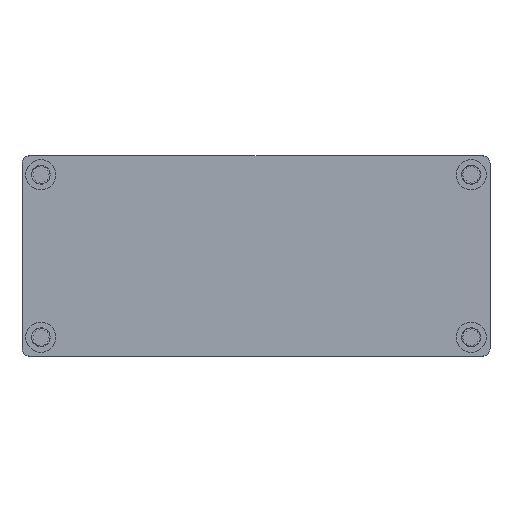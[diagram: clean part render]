
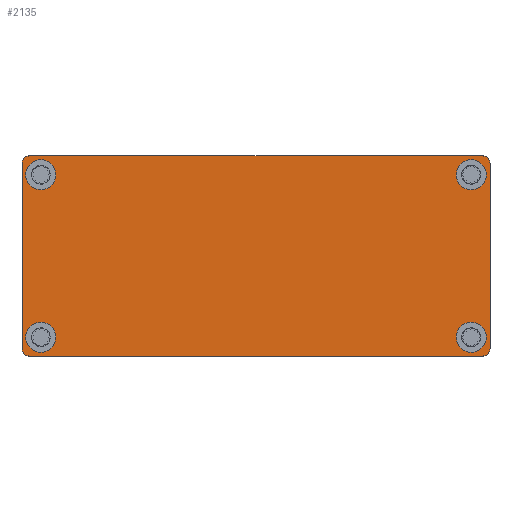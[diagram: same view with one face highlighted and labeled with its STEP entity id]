
A CAD part, front view. The second image highlights one B-rep face of the part: STEP entity #2135.
In plain terms, the highlighted planar face has unit normal (0, -1, 0).
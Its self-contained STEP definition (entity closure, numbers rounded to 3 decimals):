
#1 = CARTESIAN_POINT ( 'NONE',  ( -31.1, -1.2, -12.3 ) ) ;
#48 = CARTESIAN_POINT ( 'NONE',  ( -31.1, -1.2, 12.3 ) ) ;
#133 = LINE ( 'NONE', #3810, #10622 ) ;
#155 = EDGE_CURVE ( 'NONE', #11324, #10833, #3067, .T. ) ;
#161 = DIRECTION ( 'NONE',  ( 0., 0., 1. ) ) ;
#549 = CARTESIAN_POINT ( 'NONE',  ( -31.1, -1.2, -13.3 ) ) ;
#551 = DIRECTION ( 'NONE',  ( 0., -1., 0. ) ) ;
#578 = CARTESIAN_POINT ( 'NONE',  ( 28.6, -1.2, -12.8 ) ) ;
#744 = DIRECTION ( 'NONE',  ( 0., -1., 0. ) ) ;
#761 = DIRECTION ( 'NONE',  ( 0., -1., 0. ) ) ;
#951 = ORIENTED_EDGE ( 'NONE', *, *, #8609, .F. ) ;
#1085 = ORIENTED_EDGE ( 'NONE', *, *, #10378, .F. ) ;
#1406 = DIRECTION ( 'NONE',  ( 0., 0., 1. ) ) ;
#1428 = ORIENTED_EDGE ( 'NONE', *, *, #8620, .F. ) ;
#1539 = ORIENTED_EDGE ( 'NONE', *, *, #5530, .T. ) ;
#1627 = CARTESIAN_POINT ( 'NONE',  ( 30.1, -1.2, -12.3 ) ) ;
#1722 = DIRECTION ( 'NONE',  ( 1., 0., 0. ) ) ;
#1723 = CARTESIAN_POINT ( 'NONE',  ( 30.1, -1.2, -13.3 ) ) ;
#1787 = VERTEX_POINT ( 'NONE', #10105 ) ;
#2135 = ADVANCED_FACE ( 'NONE', ( #11068, #7454, #11904, #2731, #3647 ), #5458, .F. ) ;
#2200 = EDGE_CURVE ( 'NONE', #6940, #11242, #4633, .T. ) ;
#2226 = EDGE_LOOP ( 'NONE', ( #951, #1539, #1428, #2683, #8391, #9084, #4834, #10608 ) ) ;
#2328 = DIRECTION ( 'NONE',  ( 0., 0., 1. ) ) ;
#2387 = CARTESIAN_POINT ( 'NONE',  ( -28.6, -1.2, 10.8 ) ) ;
#2466 = AXIS2_PLACEMENT_3D ( 'NONE', #10219, #8417, #161 ) ;
#2476 = AXIS2_PLACEMENT_3D ( 'NONE', #9714, #551, #1406 ) ;
#2501 = CARTESIAN_POINT ( 'NONE',  ( -31.1, -1.2, 13.3 ) ) ;
#2578 = CARTESIAN_POINT ( 'NONE',  ( 28.6, -1.2, 10.8 ) ) ;
#2655 = CIRCLE ( 'NONE', #2466, 1. ) ;
#2683 = ORIENTED_EDGE ( 'NONE', *, *, #155, .T. ) ;
#2731 = FACE_BOUND ( 'NONE', #11392, .T. ) ;
#2925 = CARTESIAN_POINT ( 'NONE',  ( 0., -1.2, 0. ) ) ;
#3030 = CARTESIAN_POINT ( 'NONE',  ( -28.6, -1.2, -10.8 ) ) ;
#3061 = EDGE_CURVE ( 'NONE', #6551, #11242, #8777, .T. ) ;
#3067 = CIRCLE ( 'NONE', #2476, 1. ) ;
#3189 = EDGE_CURVE ( 'NONE', #6940, #10833, #6131, .T. ) ;
#3310 = EDGE_CURVE ( 'NONE', #6551, #10579, #2655, .T. ) ;
#3365 = CARTESIAN_POINT ( 'NONE',  ( 28.6, -1.2, 8.8 ) ) ;
#3469 = DIRECTION ( 'NONE',  ( 0., 0., -1. ) ) ;
#3479 = VERTEX_POINT ( 'NONE', #578 ) ;
#3647 = FACE_OUTER_BOUND ( 'NONE', #2226, .T. ) ;
#3670 = AXIS2_PLACEMENT_3D ( 'NONE', #10154, #4611, #8281 ) ;
#3710 = DIRECTION ( 'NONE',  ( 0., 0., 1. ) ) ;
#3810 = CARTESIAN_POINT ( 'NONE',  ( 31.1, -1.2, -13.3 ) ) ;
#4213 = VECTOR ( 'NONE', #2328, 1000. ) ;
#4228 = DIRECTION ( 'NONE',  ( -1., 0., 0. ) ) ;
#4611 = DIRECTION ( 'NONE',  ( 0., -1., 0. ) ) ;
#4633 = CIRCLE ( 'NONE', #3670, 1. ) ;
#4646 = EDGE_CURVE ( 'NONE', #3479, #3479, #7568, .T. ) ;
#4834 = ORIENTED_EDGE ( 'NONE', *, *, #3061, .F. ) ;
#4955 = EDGE_CURVE ( 'NONE', #5231, #5231, #9136, .T. ) ;
#5118 = VERTEX_POINT ( 'NONE', #3365 ) ;
#5138 = LINE ( 'NONE', #549, #5234 ) ;
#5231 = VERTEX_POINT ( 'NONE', #11624 ) ;
#5234 = VECTOR ( 'NONE', #4228, 1000. ) ;
#5256 = CIRCLE ( 'NONE', #5263, 2. ) ;
#5263 = AXIS2_PLACEMENT_3D ( 'NONE', #2578, #6324, #7225 ) ;
#5269 = AXIS2_PLACEMENT_3D ( 'NONE', #2387, #744, #3469 ) ;
#5458 = PLANE ( 'NONE',  #11380 ) ;
#5530 = EDGE_CURVE ( 'NONE', #6083, #8333, #8160, .T. ) ;
#5575 = EDGE_LOOP ( 'NONE', ( #8449 ) ) ;
#5887 = CARTESIAN_POINT ( 'NONE',  ( -30.1, -1.2, -13.3 ) ) ;
#5985 = CARTESIAN_POINT ( 'NONE',  ( 31.1, -1.2, -12.3 ) ) ;
#6073 = CARTESIAN_POINT ( 'NONE',  ( 31.1, -1.2, 12.3 ) ) ;
#6083 = VERTEX_POINT ( 'NONE', #1723 ) ;
#6131 = LINE ( 'NONE', #2501, #7865 ) ;
#6324 = DIRECTION ( 'NONE',  ( 0., -1., 0. ) ) ;
#6551 = VERTEX_POINT ( 'NONE', #1 ) ;
#6822 = EDGE_CURVE ( 'NONE', #5118, #5118, #5256, .T. ) ;
#6940 = VERTEX_POINT ( 'NONE', #10175 ) ;
#7019 = DIRECTION ( 'NONE',  ( 0., -1., 0. ) ) ;
#7167 = ORIENTED_EDGE ( 'NONE', *, *, #6822, .F. ) ;
#7225 = DIRECTION ( 'NONE',  ( 0., 0., -1. ) ) ;
#7454 = FACE_BOUND ( 'NONE', #11511, .T. ) ;
#7568 = CIRCLE ( 'NONE', #10053, 2. ) ;
#7619 = DIRECTION ( 'NONE',  ( 0., -1., 0. ) ) ;
#7865 = VECTOR ( 'NONE', #1722, 1000. ) ;
#8160 = CIRCLE ( 'NONE', #10084, 1. ) ;
#8281 = DIRECTION ( 'NONE',  ( 0., 0., 1. ) ) ;
#8333 = VERTEX_POINT ( 'NONE', #5985 ) ;
#8391 = ORIENTED_EDGE ( 'NONE', *, *, #3189, .F. ) ;
#8417 = DIRECTION ( 'NONE',  ( 0., -1., 0. ) ) ;
#8449 = ORIENTED_EDGE ( 'NONE', *, *, #4955, .F. ) ;
#8569 = ORIENTED_EDGE ( 'NONE', *, *, #4646, .F. ) ;
#8609 = EDGE_CURVE ( 'NONE', #6083, #10579, #5138, .T. ) ;
#8620 = EDGE_CURVE ( 'NONE', #11324, #8333, #133, .T. ) ;
#8777 = LINE ( 'NONE', #9513, #4213 ) ;
#9084 = ORIENTED_EDGE ( 'NONE', *, *, #2200, .T. ) ;
#9136 = CIRCLE ( 'NONE', #11842, 2. ) ;
#9217 = DIRECTION ( 'NONE',  ( 0., 0., -1. ) ) ;
#9513 = CARTESIAN_POINT ( 'NONE',  ( -31.1, -1.2, -13.3 ) ) ;
#9714 = CARTESIAN_POINT ( 'NONE',  ( 30.1, -1.2, 12.3 ) ) ;
#9932 = DIRECTION ( 'NONE',  ( 0., 0., 1. ) ) ;
#10053 = AXIS2_PLACEMENT_3D ( 'NONE', #11660, #7019, #11833 ) ;
#10084 = AXIS2_PLACEMENT_3D ( 'NONE', #1627, #761, #9932 ) ;
#10105 = CARTESIAN_POINT ( 'NONE',  ( -28.6, -1.2, 8.8 ) ) ;
#10154 = CARTESIAN_POINT ( 'NONE',  ( -30.1, -1.2, 12.3 ) ) ;
#10175 = CARTESIAN_POINT ( 'NONE',  ( -30.1, -1.2, 13.3 ) ) ;
#10216 = DIRECTION ( 'NONE',  ( 0., 1., 0. ) ) ;
#10219 = CARTESIAN_POINT ( 'NONE',  ( -30.1, -1.2, -12.3 ) ) ;
#10378 = EDGE_CURVE ( 'NONE', #1787, #1787, #10466, .T. ) ;
#10466 = CIRCLE ( 'NONE', #5269, 2. ) ;
#10579 = VERTEX_POINT ( 'NONE', #5887 ) ;
#10608 = ORIENTED_EDGE ( 'NONE', *, *, #3310, .T. ) ;
#10622 = VECTOR ( 'NONE', #9217, 1000. ) ;
#10833 = VERTEX_POINT ( 'NONE', #11098 ) ;
#11068 = FACE_BOUND ( 'NONE', #5575, .T. ) ;
#11098 = CARTESIAN_POINT ( 'NONE',  ( 30.1, -1.2, 13.3 ) ) ;
#11242 = VERTEX_POINT ( 'NONE', #48 ) ;
#11299 = DIRECTION ( 'NONE',  ( 0., 0., -1. ) ) ;
#11303 = EDGE_LOOP ( 'NONE', ( #7167 ) ) ;
#11324 = VERTEX_POINT ( 'NONE', #6073 ) ;
#11380 = AXIS2_PLACEMENT_3D ( 'NONE', #2925, #10216, #3710 ) ;
#11392 = EDGE_LOOP ( 'NONE', ( #1085 ) ) ;
#11511 = EDGE_LOOP ( 'NONE', ( #8569 ) ) ;
#11624 = CARTESIAN_POINT ( 'NONE',  ( -28.6, -1.2, -12.8 ) ) ;
#11660 = CARTESIAN_POINT ( 'NONE',  ( 28.6, -1.2, -10.8 ) ) ;
#11833 = DIRECTION ( 'NONE',  ( 0., 0., -1. ) ) ;
#11842 = AXIS2_PLACEMENT_3D ( 'NONE', #3030, #7619, #11299 ) ;
#11904 = FACE_BOUND ( 'NONE', #11303, .T. ) ;
